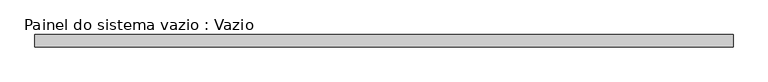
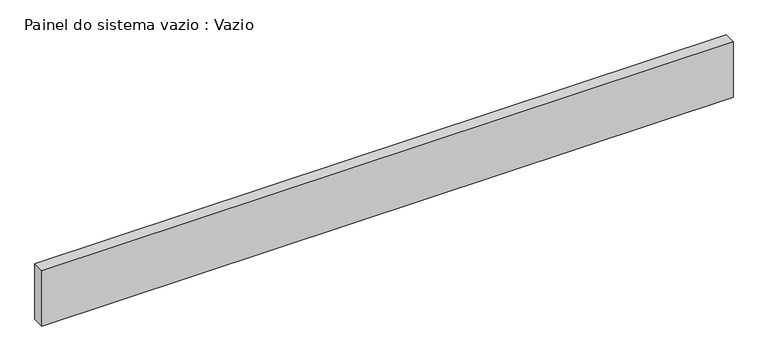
"""IFC4 building model written with IfcOpenShell, lengths in millimetres: plate geometry, Painel do sistema vazio : Vazio."""

from ifc_helpers import new_model, si_unit, origin, origin_with_axes, place, context, project, spatial, polyline, outline, extrude, source, transform, mapped, element, save


def painel_do_sistema_vazio_vazio_67ec3ebd(model_context):
    return source(origin(), model_context, "Body", "SweptSolid", [
        extrude(outline(polyline([(2825.0, -50.0), (-2825.0, -50.0), (-2825.0, 50.0), (2825.0, 50.0), (2825.0, -50.0)])), origin_with_axes(), (0.0, 0.0, 1.0), 477.5290667),
    ])


if __name__ == "__main__":
    model = new_model("IFC4")
    model_context = context("Model", 3, world=origin())
    ifc_project = project(units=[si_unit("LENGTHUNIT", "METRE", prefix="MILLI")], contexts=[model_context])
    site = spatial("IfcSite", under=ifc_project)
    building = spatial("IfcBuilding", under=site)
    placement = place(None, origin())
    painel_do_sistema_vazio_vazio_shape = painel_do_sistema_vazio_vazio_67ec3ebd(model_context)
    element("IfcPlate", 1, ObjectType="Painel do sistema vazio : Vazio", at=placement, inside=building, context=model_context, shape_type="MappedRepresentation", body=[
        mapped(painel_do_sistema_vazio_vazio_shape, transform((0.0, 0.0, 0.0), x_axis=(1.0, 0.0, 0.0), y_axis=(0.0, 1.0, 0.0), z_axis=(0.0, 0.0, 1.0))),
    ])
    save(model, "model.ifc")
